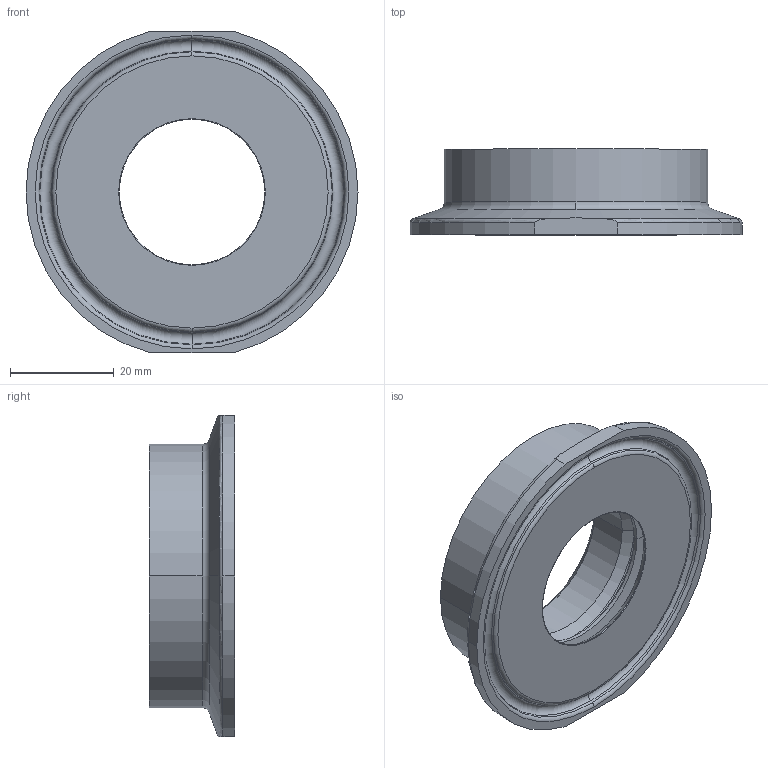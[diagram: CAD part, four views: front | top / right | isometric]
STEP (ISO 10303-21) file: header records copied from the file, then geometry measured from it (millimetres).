
FILE_DESCRIPTION( ( '' ), '1' );
FILE_NAME( '//expscmdclustefs.cadenas.external/client_exchange/iodir/jobs/output/wkb55036823_no0/STEP/E33209_204.stp', '2013-03-01T10:15:16', ( '' ), ( '' ), ' ', ' ', ' ' );
FILE_SCHEMA( ( 'CONFIG_CONTROL_DESIGN' ) );
Length unit declared in the file: millimetre
Products named in the file (1): 1
Bounding box: 64 x 16.5 x 62 mm (x, y, z)
Volume: 24393.9 mm3; surface area: 10313.5 mm2
Topology: 1 solids, 1 shells, 61 faces, 163 edges, 106 vertices
Faces by surface type: torus 22, cone 18, cylinder 14, plane 7
Entity records: 2145 total; most frequent: CARTESIAN_POINT 481, DIRECTION 391, ORIENTED_EDGE 326, AXIS2_PLACEMENT_3D 178, EDGE_CURVE 163, CIRCLE 114, VERTEX_POINT 106, EDGE_LOOP 67
